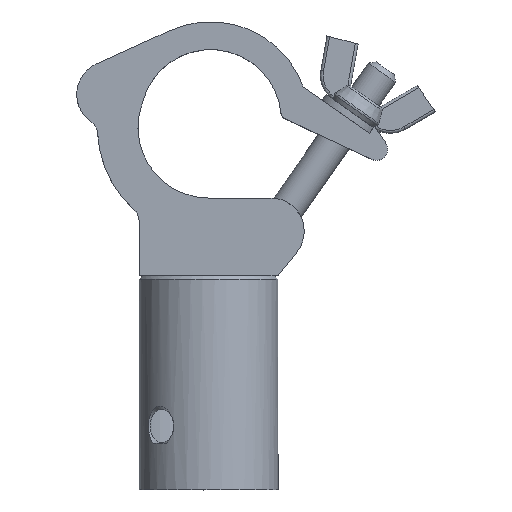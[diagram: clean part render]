
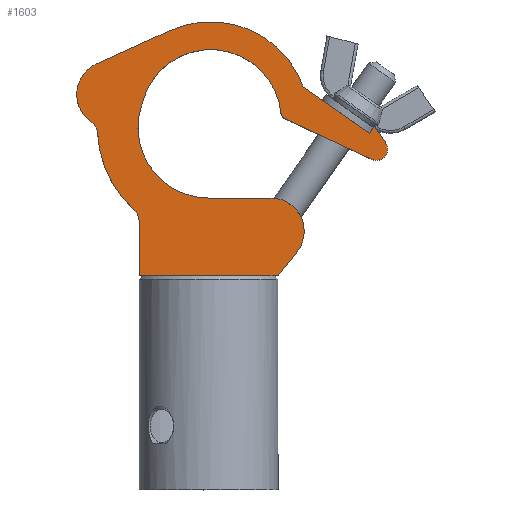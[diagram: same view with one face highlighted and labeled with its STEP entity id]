
A CAD part, top view. The second image highlights one B-rep face of the part: STEP entity #1603.
In plain terms, the highlighted planar face has unit normal (0, 0, 1).
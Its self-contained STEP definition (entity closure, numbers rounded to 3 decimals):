
#94=LINE('',#2321,#202);
#139=LINE('',#2764,#247);
#148=LINE('',#2788,#256);
#149=LINE('',#2791,#257);
#151=LINE('',#2795,#259);
#163=LINE('',#2843,#271);
#164=LINE('',#2848,#272);
#168=LINE('',#2855,#276);
#170=LINE('',#2859,#278);
#172=LINE('',#2871,#280);
#173=LINE('',#2872,#281);
#202=VECTOR('',#1863,10.);
#247=VECTOR('',#2076,10.);
#256=VECTOR('',#2101,10.);
#257=VECTOR('',#2104,10.);
#259=VECTOR('',#2108,10.);
#271=VECTOR('',#2160,10.);
#272=VECTOR('',#2165,10.);
#276=VECTOR('',#2171,10.);
#278=VECTOR('',#2175,10.);
#280=VECTOR('',#2189,10.);
#281=VECTOR('',#2190,10.);
#468=FACE_OUTER_BOUND('',#553,.T.);
#553=EDGE_LOOP('',(#1408,#1409,#1410,#1411,#1412,#1413,#1414,#1415,#1416,
#1417,#1418,#1419,#1420,#1421,#1422,#1423,#1424,#1425,#1426,#1427,#1428,
#1429));
#608=CIRCLE('',#1738,25.4);
#609=CIRCLE('',#1741,2.);
#612=CIRCLE('',#1752,4.);
#614=CIRCLE('',#1756,35.4);
#623=CIRCLE('',#1767,12.);
#626=CIRCLE('',#1775,12.);
#627=CIRCLE('',#1777,5.);
#628=CIRCLE('',#1778,40.);
#629=CIRCLE('',#1779,5.);
#630=CIRCLE('',#1780,12.);
#631=CIRCLE('',#1781,25.4);
#682=VERTEX_POINT('',#2318);
#683=VERTEX_POINT('',#2320);
#752=VERTEX_POINT('',#2752);
#753=VERTEX_POINT('',#2754);
#756=VERTEX_POINT('',#2761);
#757=VERTEX_POINT('',#2763);
#758=VERTEX_POINT('',#2767);
#764=VERTEX_POINT('',#2786);
#765=VERTEX_POINT('',#2790);
#766=VERTEX_POINT('',#2794);
#780=VERTEX_POINT('',#2835);
#781=VERTEX_POINT('',#2839);
#782=VERTEX_POINT('',#2841);
#783=VERTEX_POINT('',#2845);
#784=VERTEX_POINT('',#2847);
#785=VERTEX_POINT('',#2851);
#786=VERTEX_POINT('',#2853);
#787=VERTEX_POINT('',#2857);
#788=VERTEX_POINT('',#2861);
#789=VERTEX_POINT('',#2865);
#790=VERTEX_POINT('',#2867);
#791=VERTEX_POINT('',#2869);
#835=EDGE_CURVE('',#683,#682,#94,.T.);
#950=EDGE_CURVE('',#753,#752,#608,.T.);
#954=EDGE_CURVE('',#756,#757,#139,.T.);
#956=EDGE_CURVE('',#758,#752,#609,.T.);
#967=EDGE_CURVE('',#758,#764,#148,.T.);
#968=EDGE_CURVE('',#765,#683,#149,.T.);
#970=EDGE_CURVE('',#766,#765,#151,.T.);
#974=EDGE_CURVE('',#766,#764,#612,.T.);
#976=EDGE_CURVE('',#682,#757,#614,.T.);
#991=EDGE_CURVE('',#780,#753,#623,.T.);
#995=EDGE_CURVE('',#781,#782,#163,.T.);
#997=EDGE_CURVE('',#784,#783,#164,.T.);
#1001=EDGE_CURVE('',#785,#786,#168,.T.);
#1003=EDGE_CURVE('',#782,#787,#170,.T.);
#1005=EDGE_CURVE('',#756,#788,#626,.T.);
#1006=EDGE_CURVE('',#788,#789,#627,.T.);
#1007=EDGE_CURVE('',#789,#790,#628,.T.);
#1008=EDGE_CURVE('',#790,#791,#629,.T.);
#1009=EDGE_CURVE('',#791,#784,#172,.T.);
#1010=EDGE_CURVE('',#781,#783,#173,.T.);
#1011=EDGE_CURVE('',#787,#785,#630,.T.);
#1012=EDGE_CURVE('',#786,#780,#631,.T.);
#1408=ORIENTED_EDGE('',*,*,#1006,.T.);
#1409=ORIENTED_EDGE('',*,*,#1007,.T.);
#1410=ORIENTED_EDGE('',*,*,#1008,.T.);
#1411=ORIENTED_EDGE('',*,*,#1009,.T.);
#1412=ORIENTED_EDGE('',*,*,#997,.T.);
#1413=ORIENTED_EDGE('',*,*,#1010,.F.);
#1414=ORIENTED_EDGE('',*,*,#995,.T.);
#1415=ORIENTED_EDGE('',*,*,#1003,.T.);
#1416=ORIENTED_EDGE('',*,*,#1011,.T.);
#1417=ORIENTED_EDGE('',*,*,#1001,.T.);
#1418=ORIENTED_EDGE('',*,*,#1012,.T.);
#1419=ORIENTED_EDGE('',*,*,#991,.T.);
#1420=ORIENTED_EDGE('',*,*,#950,.T.);
#1421=ORIENTED_EDGE('',*,*,#956,.F.);
#1422=ORIENTED_EDGE('',*,*,#967,.T.);
#1423=ORIENTED_EDGE('',*,*,#974,.F.);
#1424=ORIENTED_EDGE('',*,*,#970,.T.);
#1425=ORIENTED_EDGE('',*,*,#968,.T.);
#1426=ORIENTED_EDGE('',*,*,#835,.T.);
#1427=ORIENTED_EDGE('',*,*,#976,.T.);
#1428=ORIENTED_EDGE('',*,*,#954,.F.);
#1429=ORIENTED_EDGE('',*,*,#1005,.T.);
#1530=PLANE('',#1776);
#1603=ADVANCED_FACE('',(#468),#1530,.T.);
#1738=AXIS2_PLACEMENT_3D('',#2755,#2069,#2070);
#1741=AXIS2_PLACEMENT_3D('',#2768,#2080,#2081);
#1752=AXIS2_PLACEMENT_3D('',#2802,#2116,#2117);
#1756=AXIS2_PLACEMENT_3D('',#2806,#2124,#2125);
#1767=AXIS2_PLACEMENT_3D('',#2836,#2152,#2153);
#1775=AXIS2_PLACEMENT_3D('',#2863,#2179,#2180);
#1776=AXIS2_PLACEMENT_3D('',#2864,#2181,#2182);
#1777=AXIS2_PLACEMENT_3D('',#2866,#2183,#2184);
#1778=AXIS2_PLACEMENT_3D('',#2868,#2185,#2186);
#1779=AXIS2_PLACEMENT_3D('',#2870,#2187,#2188);
#1780=AXIS2_PLACEMENT_3D('',#2873,#2191,#2192);
#1781=AXIS2_PLACEMENT_3D('',#2874,#2193,#2194);
#1863=DIRECTION('',(-0.819,0.574,0.));
#2069=DIRECTION('center_axis',(0.,0.,-1.));
#2070=DIRECTION('ref_axis',(-0.999,-0.043,0.));
#2076=DIRECTION('',(0.911,0.413,0.));
#2080=DIRECTION('center_axis',(0.,0.,-1.));
#2081=DIRECTION('ref_axis',(-0.819,-0.574,0.));
#2101=DIRECTION('',(0.906,-0.423,0.));
#2104=DIRECTION('',(-0.574,-0.819,0.));
#2108=DIRECTION('',(-0.559,0.829,0.));
#2116=DIRECTION('center_axis',(0.,0.,-1.));
#2117=DIRECTION('ref_axis',(0.76,-0.649,0.));
#2124=DIRECTION('center_axis',(0.,0.,1.));
#2125=DIRECTION('ref_axis',(0.942,0.336,0.));
#2152=DIRECTION('center_axis',(0.,0.,1.));
#2153=DIRECTION('ref_axis',(0.948,-0.318,0.));
#2160=DIRECTION('',(1.,0.,0.));
#2165=DIRECTION('',(1.,0.,0.));
#2171=DIRECTION('',(-1.,0.,0.));
#2175=DIRECTION('',(0.624,0.781,0.));
#2179=DIRECTION('center_axis',(0.,0.,1.));
#2180=DIRECTION('ref_axis',(0.948,-0.318,0.));
#2181=DIRECTION('center_axis',(0.,0.,1.));
#2182=DIRECTION('ref_axis',(1.,0.,0.));
#2183=DIRECTION('center_axis',(0.,0.,-1.));
#2184=DIRECTION('ref_axis',(-0.999,-0.049,0.));
#2185=DIRECTION('center_axis',(0.,0.,1.));
#2186=DIRECTION('ref_axis',(-0.999,-0.049,0.));
#2187=DIRECTION('center_axis',(0.,0.,-1.));
#2188=DIRECTION('ref_axis',(-1.,0.,0.));
#2189=DIRECTION('',(0.,-1.,0.));
#2190=DIRECTION('',(-1.,0.,0.));
#2191=DIRECTION('center_axis',(0.,0.,1.));
#2192=DIRECTION('ref_axis',(0.781,-0.624,0.));
#2193=DIRECTION('center_axis',(0.,0.,-1.));
#2194=DIRECTION('ref_axis',(0.948,-0.318,0.));
#2318=CARTESIAN_POINT('',(34.116,67.904,15.));
#2320=CARTESIAN_POINT('',(57.872,51.27,15.));
#2321=CARTESIAN_POINT('',(57.872,51.27,15.));
#2752=CARTESIAN_POINT('',(26.071,58.262,15.));
#2754=CARTESIAN_POINT('',(-23.81,62.422,15.));
#2755=CARTESIAN_POINT('Origin',(0.77,56.021,15.));
#2761=CARTESIAN_POINT('',(-40.411,76.231,15.));
#2763=CARTESIAN_POINT('',(-13.835,88.268,15.));
#2764=CARTESIAN_POINT('',(-6.29,91.685,15.));
#2767=CARTESIAN_POINT('',(27.218,56.626,15.));
#2768=CARTESIAN_POINT('Origin',(28.063,58.439,15.));
#2786=CARTESIAN_POINT('',(58.745,41.925,15.));
#2788=CARTESIAN_POINT('',(26.146,57.126,15.));
#2790=CARTESIAN_POINT('',(59.67,53.838,15.));
#2791=CARTESIAN_POINT('',(59.67,53.838,15.));
#2794=CARTESIAN_POINT('',(63.752,47.787,15.));
#2795=CARTESIAN_POINT('',(71.817,35.829,15.));
#2802=CARTESIAN_POINT('Origin',(60.435,45.55,15.));
#2806=CARTESIAN_POINT('Origin',(0.77,56.021,15.));
#2835=CARTESIAN_POINT('',(-24.084,61.482,15.));
#2836=CARTESIAN_POINT('Origin',(-35.46,65.3,15.));
#2839=CARTESIAN_POINT('',(18.478,0.,15.));
#2841=CARTESIAN_POINT('',(25.,0.,15.));
#2843=CARTESIAN_POINT('',(-25.,0.,15.));
#2845=CARTESIAN_POINT('',(-18.478,0.,15.));
#2847=CARTESIAN_POINT('',(-25.,0.,15.));
#2848=CARTESIAN_POINT('',(-25.,0.,15.));
#2851=CARTESIAN_POINT('',(22.42,28.,15.));
#2853=CARTESIAN_POINT('',(-0.004,28.,15.));
#2855=CARTESIAN_POINT('',(22.42,28.,15.));
#2857=CARTESIAN_POINT('',(31.797,8.512,15.));
#2859=CARTESIAN_POINT('',(25.,0.,15.));
#2861=CARTESIAN_POINT('',(-42.159,55.344,15.));
#2863=CARTESIAN_POINT('Origin',(-35.46,65.3,15.));
#2864=CARTESIAN_POINT('Origin',(-10.777,28.921,15.));
#2865=CARTESIAN_POINT('',(-39.956,51.44,15.));
#2866=CARTESIAN_POINT('Origin',(-44.95,51.195,15.));
#2867=CARTESIAN_POINT('',(-26.667,23.583,15.));
#2868=CARTESIAN_POINT('Origin',(-0.004,53.4,15.));
#2869=CARTESIAN_POINT('',(-25.,19.856,15.));
#2870=CARTESIAN_POINT('Origin',(-30.,19.856,15.));
#2871=CARTESIAN_POINT('',(-25.,19.856,15.));
#2872=CARTESIAN_POINT('',(-5.389,0.,15.));
#2873=CARTESIAN_POINT('Origin',(22.42,16.,15.));
#2874=CARTESIAN_POINT('Origin',(-0.004,53.4,15.));
